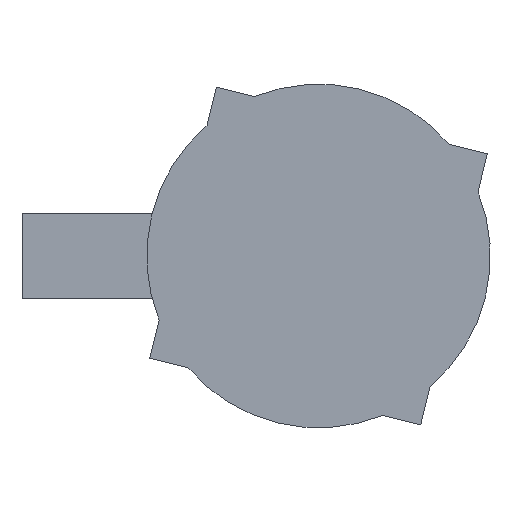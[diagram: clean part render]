
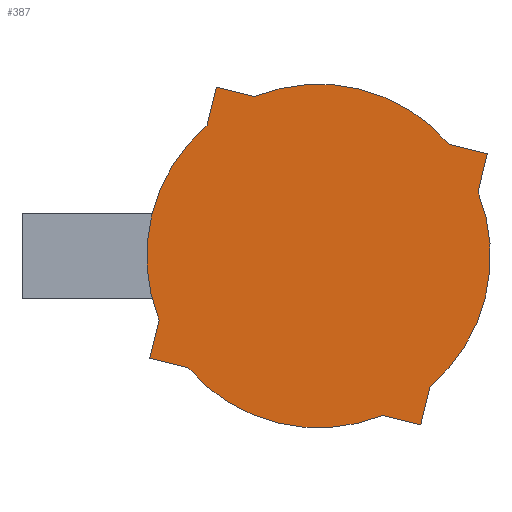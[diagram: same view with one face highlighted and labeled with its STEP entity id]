
A CAD part, front view. The second image highlights one B-rep face of the part: STEP entity #387.
In plain terms, the highlighted planar face has unit normal (0, -1, 0).
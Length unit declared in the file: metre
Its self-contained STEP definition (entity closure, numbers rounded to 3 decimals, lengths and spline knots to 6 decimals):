
#13=CIRCLE('',#415,0.034071);
#15=CIRCLE('',#420,0.034071);
#17=CIRCLE('',#425,0.034071);
#19=CIRCLE('',#430,0.034071);
#78=ORIENTED_EDGE('',*,*,#136,.T.);
#79=ORIENTED_EDGE('',*,*,#140,.T.);
#80=ORIENTED_EDGE('',*,*,#143,.T.);
#81=ORIENTED_EDGE('',*,*,#146,.T.);
#82=ORIENTED_EDGE('',*,*,#149,.T.);
#83=ORIENTED_EDGE('',*,*,#152,.T.);
#84=ORIENTED_EDGE('',*,*,#155,.T.);
#85=ORIENTED_EDGE('',*,*,#158,.T.);
#86=ORIENTED_EDGE('',*,*,#161,.T.);
#87=ORIENTED_EDGE('',*,*,#164,.T.);
#88=ORIENTED_EDGE('',*,*,#167,.T.);
#89=ORIENTED_EDGE('',*,*,#169,.T.);
#136=EDGE_CURVE('',#189,#188,#224,.T.);
#140=EDGE_CURVE('',#188,#191,#228,.T.);
#143=EDGE_CURVE('',#191,#193,#13,.T.);
#146=EDGE_CURVE('',#193,#195,#232,.T.);
#149=EDGE_CURVE('',#195,#197,#235,.T.);
#152=EDGE_CURVE('',#197,#199,#15,.T.);
#155=EDGE_CURVE('',#199,#201,#239,.T.);
#158=EDGE_CURVE('',#201,#203,#242,.T.);
#161=EDGE_CURVE('',#203,#205,#17,.T.);
#164=EDGE_CURVE('',#205,#207,#246,.T.);
#167=EDGE_CURVE('',#207,#209,#249,.T.);
#169=EDGE_CURVE('',#209,#189,#19,.T.);
#188=VERTEX_POINT('',#564);
#189=VERTEX_POINT('',#566);
#191=VERTEX_POINT('',#572);
#193=VERTEX_POINT('',#578);
#195=VERTEX_POINT('',#584);
#197=VERTEX_POINT('',#590);
#199=VERTEX_POINT('',#596);
#201=VERTEX_POINT('',#602);
#203=VERTEX_POINT('',#608);
#205=VERTEX_POINT('',#614);
#207=VERTEX_POINT('',#620);
#209=VERTEX_POINT('',#626);
#224=LINE('',#565,#264);
#228=LINE('',#573,#268);
#232=LINE('',#585,#272);
#235=LINE('',#591,#275);
#239=LINE('',#603,#279);
#242=LINE('',#609,#282);
#246=LINE('',#621,#286);
#249=LINE('',#627,#289);
#264=VECTOR('',#452,1.);
#268=VECTOR('',#458,1.);
#272=VECTOR('',#470,1.);
#275=VECTOR('',#475,1.);
#279=VECTOR('',#487,1.);
#282=VECTOR('',#492,1.);
#286=VECTOR('',#504,1.);
#289=VECTOR('',#509,1.);
#314=EDGE_LOOP('',(#78,#79,#80,#81,#82,#83,#84,#85,#86,#87,#88,#89));
#342=FACE_BOUND('',#314,.T.);
#366=PLANE('',#431);
#387=ADVANCED_FACE('',(#342),#366,.T.);
#415=AXIS2_PLACEMENT_3D('',#579,#464,#465);
#420=AXIS2_PLACEMENT_3D('',#597,#481,#482);
#425=AXIS2_PLACEMENT_3D('',#615,#498,#499);
#430=AXIS2_PLACEMENT_3D('',#630,#514,#515);
#431=AXIS2_PLACEMENT_3D('',#631,#516,#517);
#452=DIRECTION('',(0.239,0.,0.971));
#458=DIRECTION('',(-0.971,0.,0.239));
#464=DIRECTION('',(0.,-1.,0.));
#465=DIRECTION('',(0.761,0.,0.649));
#470=DIRECTION('',(-0.971,0.,0.239));
#475=DIRECTION('',(-0.239,0.,-0.971));
#481=DIRECTION('',(0.,-1.,0.));
#482=DIRECTION('',(-0.649,0.,0.761));
#487=DIRECTION('',(-0.239,0.,-0.971));
#492=DIRECTION('',(0.971,0.,-0.239));
#498=DIRECTION('',(0.,-1.,0.));
#499=DIRECTION('',(-0.761,0.,-0.649));
#504=DIRECTION('',(0.971,0.,-0.239));
#509=DIRECTION('',(0.239,0.,0.971));
#514=DIRECTION('',(0.,-1.,0.));
#515=DIRECTION('',(0.649,0.,-0.761));
#516=DIRECTION('',(0.,-1.,0.));
#517=DIRECTION('',(1.,0.,0.));
#564=CARTESIAN_POINT('',(-0.042384,0.0098,0.079273));
#565=CARTESIAN_POINT('',(-0.043314,0.0098,0.075493));
#566=CARTESIAN_POINT('',(-0.044243,0.0098,0.071714));
#572=CARTESIAN_POINT('',(-0.049944,0.0098,0.081132));
#573=CARTESIAN_POINT('',(-0.046164,0.0098,0.080203));
#578=CARTESIAN_POINT('',(-0.08856,0.0098,0.090629));
#579=CARTESIAN_POINT('',(-0.075859,0.0098,0.059013));
#584=CARTESIAN_POINT('',(-0.096119,0.0098,0.092488));
#585=CARTESIAN_POINT('',(-0.092339,0.0098,0.091558));
#590=CARTESIAN_POINT('',(-0.097978,0.0098,0.084929));
#591=CARTESIAN_POINT('',(-0.097049,0.0098,0.088708));
#596=CARTESIAN_POINT('',(-0.107475,0.0098,0.046312));
#597=CARTESIAN_POINT('',(-0.075859,0.0098,0.059013));
#602=CARTESIAN_POINT('',(-0.109334,0.0098,0.038753));
#603=CARTESIAN_POINT('',(-0.108404,0.0098,0.042533));
#608=CARTESIAN_POINT('',(-0.101775,0.0098,0.036894));
#609=CARTESIAN_POINT('',(-0.105554,0.0098,0.037824));
#614=CARTESIAN_POINT('',(-0.063159,0.0098,0.027397));
#615=CARTESIAN_POINT('',(-0.075859,0.0098,0.059013));
#620=CARTESIAN_POINT('',(-0.055599,0.0098,0.025538));
#621=CARTESIAN_POINT('',(-0.059379,0.0098,0.026468));
#626=CARTESIAN_POINT('',(-0.05374,0.0098,0.033098));
#627=CARTESIAN_POINT('',(-0.05467,0.0098,0.029318));
#630=CARTESIAN_POINT('',(-0.075859,0.0098,0.059013));
#631=CARTESIAN_POINT('',(-0.075859,0.0098,0.059013));
